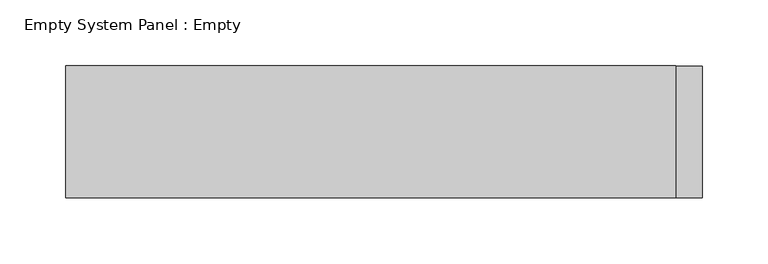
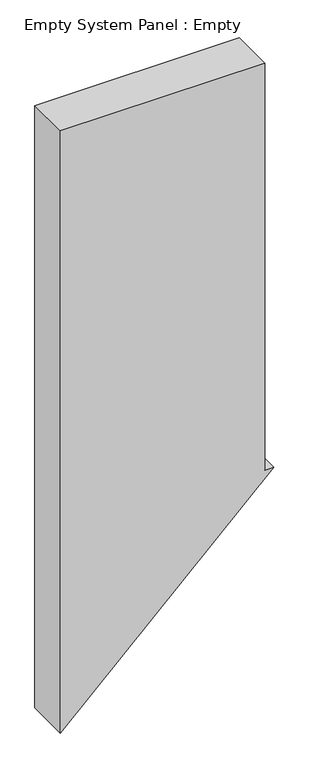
"""IFC4 building model written with IfcOpenShell, lengths in millimetres: plate geometry, Empty System Panel : Empty."""

import ifcopenshell
import ifcopenshell.guid

model = None  # the IFC model being written
_history = None  # IfcOwnerHistory: only IFC2X3 demands one
_inside = {}  # id of a spatial element -> (the spatial element, [elements in it])
_under = {}  # id of a project, library or spatial element -> (it, [spatial elements below it])
_declared = {}  # id of a project -> (the project, [libraries it declares])
_typed = {}  # id of a type object -> (the type object, [elements of that type])
_made_of = {}  # id of a material, layer set ... -> (it, [elements and type objects made of it])


def new_model(schema):
    """Start an empty IFC model of exactly this schema.

    Asked for "IFC4X3", IfcOpenShell would pick the latest addendum, in which some entities
    have other attributes; the version numbers below select the first issue.
    IFC2X3 requires an IfcOwnerHistory on every rooted entity: one is made here for all.
    """
    global model, _history
    if schema == "IFC4X3":
        model = ifcopenshell.file(schema_version=(4, 3, 0, 0))
    else:
        model = ifcopenshell.file(schema=schema)
    _inside.clear()
    _under.clear()
    _declared.clear()
    _typed.clear()
    _made_of.clear()
    _history = None
    if model.schema == "IFC2X3":
        org = make("IfcOrganization", Name="unknown")
        user = make(
            "IfcPersonAndOrganization",
            ThePerson=make("IfcPerson", FamilyName="unknown"),
            TheOrganization=org,
        )
        app = make(
            "IfcApplication",
            ApplicationDeveloper=org,
            Version="unknown",
            ApplicationFullName="unknown",
            ApplicationIdentifier="unknown",
        )
        _history = make(
            "IfcOwnerHistory",
            OwningUser=user,
            OwningApplication=app,
            ChangeAction="ADDED",
            CreationDate=0,
        )
    return model


def make(cls, **values):
    """One entity of the class cls with the attributes given. An attribute that is None is left unset."""
    return model.create_entity(
        cls, **{name: value for name, value in values.items() if value is not None}
    )


def rooted(cls, **values):
    """An entity with a GlobalId (a new one), such as an element, a storey or a relation."""
    return make(cls, GlobalId=ifcopenshell.guid.new(), OwnerHistory=_history, **values)


def si_unit(unit_type, name, prefix=None):
    """IfcSIUnit, for example si_unit("LENGTHUNIT", "METRE", prefix="MILLI")."""
    return make("IfcSIUnit", UnitType=unit_type, Prefix=prefix, Name=name)


def assignment(units):
    """IfcUnitAssignment: the units of a project."""
    return None if units is None else make("IfcUnitAssignment", Units=units)


def point(xyz):
    """IfcCartesianPoint."""
    return None if xyz is None else make("IfcCartesianPoint", Coordinates=xyz)


def direction(xyz):
    """IfcDirection."""
    return None if xyz is None else make("IfcDirection", DirectionRatios=xyz)


def frame(location, z_axis=None, x_axis=None):
    """IfcAxis2Placement3D, a coordinate frame: its origin and axes. An axis left out is left unset."""
    return make(
        "IfcAxis2Placement3D",
        Location=point(location),
        Axis=direction(z_axis),
        RefDirection=direction(x_axis),
    )


def origin():
    """The frame at (0, 0, 0) with its axes left unset."""
    return frame((0.0, 0.0, 0.0))


def place(relative_to, where):
    """IfcLocalPlacement: puts the frame where relative to a parent placement (None: the world)."""
    return make(
        "IfcLocalPlacement", PlacementRelTo=relative_to, RelativePlacement=where
    )


def context(
    kind, dimensions, precision=None, world=None, true_north=None, identifier=None
):
    """IfcGeometricRepresentationContext, for example the 3D "Model" context."""
    return make(
        "IfcGeometricRepresentationContext",
        ContextIdentifier=identifier,
        ContextType=kind,
        CoordinateSpaceDimension=dimensions,
        Precision=precision,
        WorldCoordinateSystem=world,
        TrueNorth=true_north,
    )


def project(units=None, contexts=None):
    """IfcProject with its units and contexts."""
    return rooted(
        "IfcProject",
        Name="project",
        RepresentationContexts=contexts,
        UnitsInContext=assignment(units),
    )


def spatial(cls, under=None, at=None, **own):
    """A site, building, storey or space (cls), placed at a placement, below another one or the project."""
    s = rooted(cls, ObjectPlacement=at, **own)
    if under is not None:
        _under.setdefault(under.id(), (under, []))[1].append(s)
    return s


def polyline(points):
    """IfcPolyline through the points."""
    return make("IfcPolyline", Points=[point(p) for p in points])


def outline(outer, holes=None, kind="AREA"):
    """IfcArbitraryClosedProfileDef: a profile drawn as a closed curve; with holes, ...WithVoids."""
    if holes is None:
        return make("IfcArbitraryClosedProfileDef", ProfileType=kind, OuterCurve=outer)
    return make(
        "IfcArbitraryProfileDefWithVoids",
        ProfileType=kind,
        OuterCurve=outer,
        InnerCurves=holes,
    )


def extrude(swept, where, along, depth):
    """IfcExtrudedAreaSolid: the profile swept, set in the frame where, extruded along a direction by depth."""
    return make(
        "IfcExtrudedAreaSolid",
        SweptArea=swept,
        Position=where,
        ExtrudedDirection=direction(along),
        Depth=depth,
    )


def shape(context_of_items, identifier, shape_type, items):
    """IfcShapeRepresentation: the items that make up one representation, for example the "Body"."""
    return make(
        "IfcShapeRepresentation",
        ContextOfItems=context_of_items,
        RepresentationIdentifier=identifier,
        RepresentationType=shape_type,
        Items=items,
    )


def source(mapping_origin, context_of_items, identifier, shape_type, items):
    """IfcRepresentationMap: a shape defined once, which mapped items show again and again."""
    return make(
        "IfcRepresentationMap",
        MappingOrigin=mapping_origin,
        MappedRepresentation=shape(context_of_items, identifier, shape_type, items),
    )


def transform(
    local_origin,
    x_axis=None,
    y_axis=None,
    z_axis=None,
    scale=None,
    scale2=None,
    scale3=None,
    uniform=True,
):
    """IfcCartesianTransformationOperator3D, or its non-uniform kind. x_axis, y_axis, z_axis: its Axis1, 2, 3."""
    if uniform:
        return make(
            "IfcCartesianTransformationOperator3D",
            Axis1=direction(x_axis),
            Axis2=direction(y_axis),
            LocalOrigin=point(local_origin),
            Scale=scale,
            Axis3=direction(z_axis),
        )
    return make(
        "IfcCartesianTransformationOperator3DnonUniform",
        Axis1=direction(x_axis),
        Axis2=direction(y_axis),
        LocalOrigin=point(local_origin),
        Scale=scale,
        Axis3=direction(z_axis),
        Scale2=scale2,
        Scale3=scale3,
    )


def mapped(mapping_source, mapping_target):
    """IfcMappedItem: shows the shape of a source again, moved by a transform."""
    return make(
        "IfcMappedItem", MappingSource=mapping_source, MappingTarget=mapping_target
    )


def made_of(thing, what):
    """Note that an element or type object is made of a material, layer set ...; save() writes the relation."""
    if what is not None:
        _made_of.setdefault(what.id(), (what, []))[1].append(thing)
    return thing


def element(
    cls,
    number,
    at=None,
    inside=None,
    cuts=None,
    type_object=None,
    material=None,
    context=None,
    identifier="Body",
    shape_type=None,
    held_by="IfcProductDefinitionShape",
    body=None,
    shapes=None,
    **own,
):
    """One element of the class cls, such as IfcWall. Its Tag is "e" and its number.

    at: its placement. inside: the storey or other place that contains it. cuts: it is an
    opening in that element (IfcRelVoidsElement). A single representation is given by context,
    identifier, shape_type and body (its items); several are given by shapes. held_by: the class
    of the entity that holds the representations. save() writes the other relations.
    """
    e = rooted(cls, Tag="e%d" % number, ObjectPlacement=at, **own)
    if body is not None:
        shapes = [shape(context, identifier, shape_type, body)]
    if shapes is not None:
        e.Representation = make(held_by, Representations=shapes)
    if inside is not None:
        _inside.setdefault(inside.id(), (inside, []))[1].append(e)
    if cuts is not None:
        rooted(
            "IfcRelVoidsElement", RelatingBuildingElement=cuts, RelatedOpeningElement=e
        )
    if type_object is not None:
        _typed.setdefault(type_object.id(), (type_object, []))[1].append(e)
    return made_of(e, material)


def aggregate(whole, parts):
    """IfcRelAggregates: a whole, such as a stair, and the parts it consists of."""
    return rooted("IfcRelAggregates", RelatingObject=whole, RelatedObjects=parts)


def save(model, path):
    """Write the relations noted so far, then the file.

    IfcRelAggregates (storeys below a building ...), IfcRelContainedInSpatialStructure (elements
    in a storey), IfcRelDefinesByType, IfcRelAssociatesMaterial and IfcRelDeclares: one each for
    every whole, place, type object, material and project.
    """
    for whole, parts in _under.values():
        aggregate(whole, parts)
    for where, things in _inside.values():
        rooted(
            "IfcRelContainedInSpatialStructure",
            RelatedElements=things,
            RelatingStructure=where,
        )
    for kind, things in _typed.values():
        rooted("IfcRelDefinesByType", RelatedObjects=things, RelatingType=kind)
    for what, things in _made_of.values():
        rooted("IfcRelAssociatesMaterial", RelatedObjects=things, RelatingMaterial=what)
    for by, libraries in _declared.values():
        rooted("IfcRelDeclares", RelatingContext=by, RelatedDefinitions=libraries)
    model.write(path)


def empty_system_panel_empty_82f1e012(model_context):
    return source(origin(), model_context, "Body", "SweptSolid", [
        extrude(outline(polyline([(0.0, -241.6440778), (467.7734613, 241.6440778), (467.7734613, 221.6440778), (1442.0362894, 221.6440778), (1442.0362894, -241.6440778), (0.0, -241.6440778)])), frame((0.0, -50.0, 0.0), z_axis=(0.0, 1.0, 0.0), x_axis=(0.0, 0.0, 1.0)), (0.0, 0.0, 1.0), 100.0),
    ])


if __name__ == "__main__":
    model = new_model("IFC4")
    model_context = context("Model", 3, world=origin())
    ifc_project = project(units=[si_unit("LENGTHUNIT", "METRE", prefix="MILLI")], contexts=[model_context])
    site = spatial("IfcSite", under=ifc_project)
    building = spatial("IfcBuilding", under=site)
    placement = place(None, origin())
    empty_system_panel_empty_shape = empty_system_panel_empty_82f1e012(model_context)
    element("IfcPlate", 1, ObjectType="Empty System Panel : Empty", at=placement, inside=building, context=model_context, shape_type="MappedRepresentation", body=[
        mapped(empty_system_panel_empty_shape, transform((0.0, 0.0, 0.0), x_axis=(1.0, 0.0, 0.0), y_axis=(0.0, 1.0, 0.0), z_axis=(0.0, 0.0, 1.0))),
    ])
    save(model, "model.ifc")
